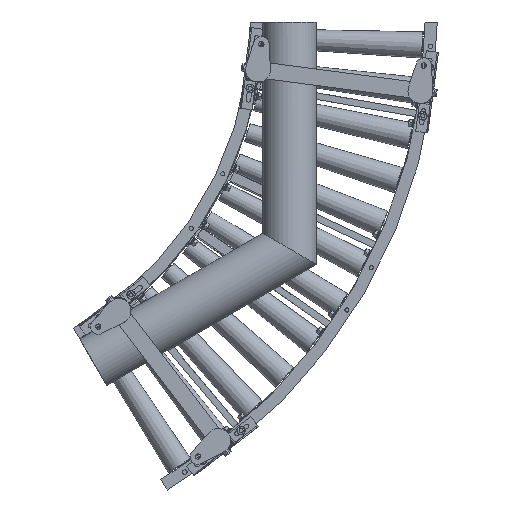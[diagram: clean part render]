
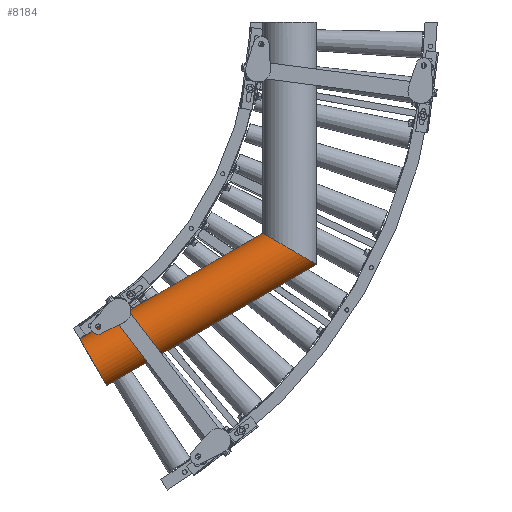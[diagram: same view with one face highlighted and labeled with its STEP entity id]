
A CAD part, front view. The second image highlights one B-rep face of the part: STEP entity #8184.
In plain terms, the highlighted cylindrical face has radius 67.024 mm (diameter 134.048 mm), a partial arc.
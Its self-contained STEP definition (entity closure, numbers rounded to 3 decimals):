
#1212 = CARTESIAN_POINT ( 'NONE',  ( 1033.3, -166.5, -596.576 ) ) ;
#4116 = DIRECTION ( 'NONE',  ( -0.5, 0., 0.866 ) ) ;
#7464 = VECTOR ( 'NONE', #112652, 1000. ) ;
#8184 = ADVANCED_FACE ( 'NONE', ( #32433 ), #92233, .T. ) ;
#12621 = DIRECTION ( 'NONE',  ( -0.866, 0., -0.5 ) ) ;
#23295 = VERTEX_POINT ( 'NONE', #49765 ) ;
#25122 = CARTESIAN_POINT ( 'NONE',  ( 1033.3, -166.5, -596.576 ) ) ;
#26465 = DIRECTION ( 'NONE',  ( 0.866, 0., 0.5 ) ) ;
#28468 = VERTEX_POINT ( 'NONE', #85784 ) ;
#32433 = FACE_OUTER_BOUND ( 'NONE', #41690, .T. ) ;
#33963 = VERTEX_POINT ( 'NONE', #65820 ) ;
#34602 = LINE ( 'NONE', #97108, #94389 ) ;
#34876 =( BOUNDED_CURVE ( )  B_SPLINE_CURVE ( 3, ( #25122, #62750, #72476, #119342 ),
 .UNSPECIFIED., .F., .F. ) 
 B_SPLINE_CURVE_WITH_KNOTS ( ( 4, 4 ),
 ( 0.147, 2.994 ),
 .UNSPECIFIED. ) 
 CURVE ( )  GEOMETRIC_REPRESENTATION_ITEM ( )  RATIONAL_B_SPLINE_CURVE ( ( 1., 0.431, 0.431, 1. ) ) 
 REPRESENTATION_ITEM ( '' )  );
#41690 = EDGE_LOOP ( 'NONE', ( #74223, #74099, #71549, #98879 ) ) ;
#42104 = EDGE_CURVE ( 'NONE', #33963, #88997, #34602, .T. ) ;
#46953 = CARTESIAN_POINT ( 'NONE',  ( 450.35, -166.5, -780.029 ) ) ;
#49554 = EDGE_CURVE ( 'NONE', #88997, #28468, #74455, .T. ) ;
#49765 = CARTESIAN_POINT ( 'NONE',  ( 1033.3, -166.5, -596.576 ) ) ;
#49893 = CARTESIAN_POINT ( 'NONE',  ( 1000.15, -156.676, -539.159 ) ) ;
#62750 = CARTESIAN_POINT ( 'NONE',  ( 1018.27, -267.933, -587.899 ) ) ;
#65820 = CARTESIAN_POINT ( 'NONE',  ( 900.7, -166.5, -520.019 ) ) ;
#71549 = ORIENTED_EDGE ( 'NONE', *, *, #49554, .T. ) ;
#72476 = CARTESIAN_POINT ( 'NONE',  ( 915.73, -267.933, -528.697 ) ) ;
#74099 = ORIENTED_EDGE ( 'NONE', *, *, #42104, .T. ) ;
#74223 = ORIENTED_EDGE ( 'NONE', *, *, #93101, .T. ) ;
#74455 = CIRCLE ( 'NONE', #103915, 67.024 ) ;
#78422 = DIRECTION ( 'NONE',  ( -0.866, 0., -0.5 ) ) ;
#85784 = CARTESIAN_POINT ( 'NONE',  ( 516.65, -166.5, -894.864 ) ) ;
#86266 = LINE ( 'NONE', #1212, #7464 ) ;
#88997 = VERTEX_POINT ( 'NONE', #46953 ) ;
#92233 = CYLINDRICAL_SURFACE ( 'NONE', #97127, 67.024 ) ;
#92552 = CARTESIAN_POINT ( 'NONE',  ( 483.5, -156.676, -837.447 ) ) ;
#93101 = EDGE_CURVE ( 'NONE', #23295, #33963, #34876, .T. ) ;
#94389 = VECTOR ( 'NONE', #12621, 1000. ) ;
#97108 = CARTESIAN_POINT ( 'NONE',  ( 967., -166.5, -481.741 ) ) ;
#97127 = AXIS2_PLACEMENT_3D ( 'NONE', #49893, #78422, #4116 ) ;
#98879 = ORIENTED_EDGE ( 'NONE', *, *, #120259, .F. ) ;
#103915 = AXIS2_PLACEMENT_3D ( 'NONE', #92552, #26465, #120633 ) ;
#112652 = DIRECTION ( 'NONE',  ( -0.866, 0., -0.5 ) ) ;
#119342 = CARTESIAN_POINT ( 'NONE',  ( 900.7, -166.5, -520.019 ) ) ;
#120259 = EDGE_CURVE ( 'NONE', #23295, #28468, #86266, .T. ) ;
#120633 = DIRECTION ( 'NONE',  ( 0.5, 0., -0.866 ) ) ;
